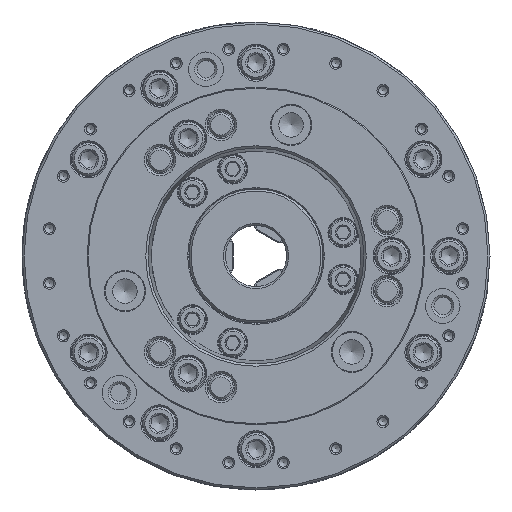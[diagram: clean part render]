
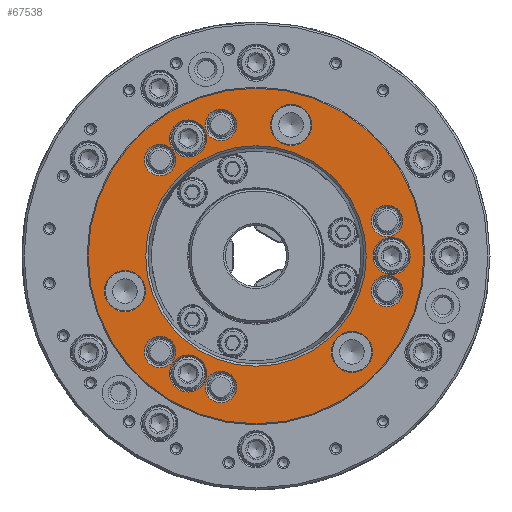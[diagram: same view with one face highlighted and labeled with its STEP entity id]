
A CAD part, left-side view. The second image highlights one B-rep face of the part: STEP entity #67538.
In plain terms, the highlighted planar face has unit normal (-1, 0, 0).
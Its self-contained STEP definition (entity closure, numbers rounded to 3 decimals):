
#695 = DIRECTION ( 'NONE',  ( 0., -0.866, 0.5 ) ) ;
#938 = ORIENTED_EDGE ( 'NONE', *, *, #96399, .F. ) ;
#1169 = FACE_OUTER_BOUND ( 'NONE', #68119, .T. ) ;
#1706 = FACE_BOUND ( 'NONE', #101027, .T. ) ;
#2371 = DIRECTION ( 'NONE',  ( -1., 0., 0. ) ) ;
#2765 = FACE_BOUND ( 'NONE', #103897, .T. ) ;
#3066 = DIRECTION ( 'NONE',  ( 0., 0., 1. ) ) ;
#3513 = VERTEX_POINT ( 'NONE', #67247 ) ;
#3589 = CARTESIAN_POINT ( 'NONE',  ( -110., 0., 0. ) ) ;
#3676 = DIRECTION ( 'NONE',  ( 0., 0., 1. ) ) ;
#4362 = DIRECTION ( 'NONE',  ( 0., 0., 1. ) ) ;
#5574 = CIRCLE ( 'NONE', #79829, 7.75 ) ;
#6825 = CARTESIAN_POINT ( 'NONE',  ( -110., -64.403, 17.257 ) ) ;
#7728 = VERTEX_POINT ( 'NONE', #65516 ) ;
#7999 = CARTESIAN_POINT ( 'NONE',  ( -110., -55.919, -42.081 ) ) ;
#9231 = DIRECTION ( 'NONE',  ( 0., 0., 1. ) ) ;
#9259 = CIRCLE ( 'NONE', #43703, 9.1 ) ;
#9608 = EDGE_CURVE ( 'NONE', #64714, #64714, #106566, .T. ) ;
#9818 = FACE_BOUND ( 'NONE', #87130, .T. ) ;
#11320 = ORIENTED_EDGE ( 'NONE', *, *, #74729, .F. ) ;
#11647 = EDGE_LOOP ( 'NONE', ( #97378 ) ) ;
#12324 = DIRECTION ( 'NONE',  ( -1., 0., 0. ) ) ;
#14077 = DIRECTION ( 'NONE',  ( -1., 0., 0. ) ) ;
#14361 = CIRCLE ( 'NONE', #21265, 82.5 ) ;
#16100 = EDGE_CURVE ( 'NONE', #81981, #81981, #70088, .T. ) ;
#16393 = VERTEX_POINT ( 'NONE', #23954 ) ;
#17582 = EDGE_LOOP ( 'NONE', ( #93160 ) ) ;
#17740 = CARTESIAN_POINT ( 'NONE',  ( -110., 64.403, -27.387 ) ) ;
#18452 = FACE_BOUND ( 'NONE', #43937, .T. ) ;
#19451 = CARTESIAN_POINT ( 'NONE',  ( -110., 33.338, 66.842 ) ) ;
#19881 = EDGE_CURVE ( 'NONE', #45030, #45030, #36125, .T. ) ;
#20870 = AXIS2_PLACEMENT_3D ( 'NONE', #39531, #56303, #38481 ) ;
#21265 = AXIS2_PLACEMENT_3D ( 'NONE', #3589, #77567, #3066 ) ;
#21874 = CARTESIAN_POINT ( 'NONE',  ( -110., -66.675, 0. ) ) ;
#21938 = AXIS2_PLACEMENT_3D ( 'NONE', #80831, #104605, #72203 ) ;
#23723 = CIRCLE ( 'NONE', #21938, 7.75 ) ;
#23954 = CARTESIAN_POINT ( 'NONE',  ( -110., 17.257, 72.153 ) ) ;
#24763 = VERTEX_POINT ( 'NONE', #33876 ) ;
#25248 = AXIS2_PLACEMENT_3D ( 'NONE', #99538, #43313, #695 ) ;
#25488 = FACE_BOUND ( 'NONE', #62116, .T. ) ;
#25735 = EDGE_CURVE ( 'NONE', #16393, #16393, #80370, .T. ) ;
#26598 = CARTESIAN_POINT ( 'NONE',  ( -110., -64.403, -9.507 ) ) ;
#27044 = ORIENTED_EDGE ( 'NONE', *, *, #19881, .F. ) ;
#27068 = DIRECTION ( 'NONE',  ( 1., 0., 0. ) ) ;
#27102 = EDGE_LOOP ( 'NONE', ( #32492 ) ) ;
#28330 = CARTESIAN_POINT ( 'NONE',  ( -110., 47.146, 54.896 ) ) ;
#28695 = EDGE_CURVE ( 'NONE', #57382, #57382, #58014, .T. ) ;
#30385 = EDGE_CURVE ( 'NONE', #7728, #7728, #32700, .T. ) ;
#31105 = AXIS2_PLACEMENT_3D ( 'NONE', #33602, #59551, #49809 ) ;
#32081 = CIRCLE ( 'NONE', #101083, 10.13 ) ;
#32492 = ORIENTED_EDGE ( 'NONE', *, *, #63364, .F. ) ;
#32519 = EDGE_CURVE ( 'NONE', #58454, #58454, #23723, .T. ) ;
#32700 = CIRCLE ( 'NONE', #46463, 7.75 ) ;
#32870 = CARTESIAN_POINT ( 'NONE',  ( -110., 64.403, -17.257 ) ) ;
#33602 = CARTESIAN_POINT ( 'NONE',  ( -110., 47.146, -47.146 ) ) ;
#33876 = CARTESIAN_POINT ( 'NONE',  ( -110., 47.146, -39.396 ) ) ;
#33879 = VERTEX_POINT ( 'NONE', #17740 ) ;
#35148 = FACE_BOUND ( 'NONE', #11647, .T. ) ;
#35805 = CARTESIAN_POINT ( 'NONE',  ( -110., 0., 0. ) ) ;
#36125 = CIRCLE ( 'NONE', #20870, 7.75 ) ;
#36156 = CIRCLE ( 'NONE', #94812, 9.1 ) ;
#36269 = VERTEX_POINT ( 'NONE', #78396 ) ;
#36945 = EDGE_LOOP ( 'NONE', ( #101900 ) ) ;
#37187 = VERTEX_POINT ( 'NONE', #19451 ) ;
#37647 = ORIENTED_EDGE ( 'NONE', *, *, #38820, .F. ) ;
#37883 = DIRECTION ( 'NONE',  ( 0., 0., 1. ) ) ;
#38481 = DIRECTION ( 'NONE',  ( 0., 0., 1. ) ) ;
#38820 = EDGE_CURVE ( 'NONE', #36269, #36269, #95493, .T. ) ;
#39014 = CARTESIAN_POINT ( 'NONE',  ( -110., -8.484, 69.468 ) ) ;
#39531 = CARTESIAN_POINT ( 'NONE',  ( -110., 47.146, 47.146 ) ) ;
#39718 = DIRECTION ( 'NONE',  ( 0., 0., 1. ) ) ;
#41999 = ORIENTED_EDGE ( 'NONE', *, *, #30385, .F. ) ;
#42178 = FACE_BOUND ( 'NONE', #67511, .T. ) ;
#42515 = AXIS2_PLACEMENT_3D ( 'NONE', #45446, #86542, #43875 ) ;
#43256 = FACE_BOUND ( 'NONE', #69552, .T. ) ;
#43313 = DIRECTION ( 'NONE',  ( 1., 0., 0. ) ) ;
#43642 = AXIS2_PLACEMENT_3D ( 'NONE', #21874, #54778, #105019 ) ;
#43703 = AXIS2_PLACEMENT_3D ( 'NONE', #59965, #83204, #9231 ) ;
#43785 = FACE_BOUND ( 'NONE', #79996, .T. ) ;
#43875 = DIRECTION ( 'NONE',  ( 0., 0.866, 0.5 ) ) ;
#43916 = DIRECTION ( 'NONE',  ( 0., 0., 1. ) ) ;
#43937 = EDGE_LOOP ( 'NONE', ( #76658 ) ) ;
#45030 = VERTEX_POINT ( 'NONE', #28330 ) ;
#45446 = CARTESIAN_POINT ( 'NONE',  ( -110., -17.257, 64.403 ) ) ;
#46463 = AXIS2_PLACEMENT_3D ( 'NONE', #6825, #98115, #39718 ) ;
#49591 = DIRECTION ( 'NONE',  ( 0., 0., -1. ) ) ;
#49809 = DIRECTION ( 'NONE',  ( 0., 0., 1. ) ) ;
#50089 = CIRCLE ( 'NONE', #31105, 7.75 ) ;
#51923 = EDGE_CURVE ( 'NONE', #96195, #96195, #5574, .T. ) ;
#54778 = DIRECTION ( 'NONE',  ( -1., 0., 0. ) ) ;
#55161 = DIRECTION ( 'NONE',  ( -1., 0., 0. ) ) ;
#56303 = DIRECTION ( 'NONE',  ( -1., 0., 0. ) ) ;
#57382 = VERTEX_POINT ( 'NONE', #39014 ) ;
#58014 = CIRCLE ( 'NONE', #42515, 10.13 ) ;
#58331 = CARTESIAN_POINT ( 'NONE',  ( -110., 17.257, -56.653 ) ) ;
#58393 = FACE_BOUND ( 'NONE', #27102, .T. ) ;
#58454 = VERTEX_POINT ( 'NONE', #26598 ) ;
#59551 = DIRECTION ( 'NONE',  ( -1., 0., 0. ) ) ;
#59965 = CARTESIAN_POINT ( 'NONE',  ( -110., 33.338, 57.742 ) ) ;
#62116 = EDGE_LOOP ( 'NONE', ( #85185 ) ) ;
#62440 = ORIENTED_EDGE ( 'NONE', *, *, #32519, .F. ) ;
#62668 = CARTESIAN_POINT ( 'NONE',  ( -110., 33.337, -57.742 ) ) ;
#63364 = EDGE_CURVE ( 'NONE', #37187, #37187, #9259, .T. ) ;
#64714 = VERTEX_POINT ( 'NONE', #84531 ) ;
#65516 = CARTESIAN_POINT ( 'NONE',  ( -110., -64.403, 25.007 ) ) ;
#65851 = DIRECTION ( 'NONE',  ( 1., 0., 0. ) ) ;
#66576 = AXIS2_PLACEMENT_3D ( 'NONE', #80016, #55161, #37883 ) ;
#67247 = CARTESIAN_POINT ( 'NONE',  ( -110., 33.337, -48.642 ) ) ;
#67511 = EDGE_LOOP ( 'NONE', ( #37647 ) ) ;
#67538 = ADVANCED_FACE ( 'NONE', ( #75693, #43256, #92448, #25488, #18452, #1706, #58393, #76229, #2765, #9818, #42178, #35148, #1169, #43785 ), #68092, .F. ) ;
#67909 = VERTEX_POINT ( 'NONE', #85223 ) ;
#68092 = PLANE ( 'NONE',  #103410 ) ;
#68119 = EDGE_LOOP ( 'NONE', ( #96940 ) ) ;
#69552 = EDGE_LOOP ( 'NONE', ( #97905 ) ) ;
#70088 = CIRCLE ( 'NONE', #25248, 10.13 ) ;
#72203 = DIRECTION ( 'NONE',  ( 0., 0., 1. ) ) ;
#74729 = EDGE_CURVE ( 'NONE', #24763, #24763, #50089, .T. ) ;
#75693 = FACE_BOUND ( 'NONE', #36945, .T. ) ;
#76229 = FACE_BOUND ( 'NONE', #17582, .T. ) ;
#76658 = ORIENTED_EDGE ( 'NONE', *, *, #25735, .F. ) ;
#77567 = DIRECTION ( 'NONE',  ( -1., 0., 0. ) ) ;
#78396 = CARTESIAN_POINT ( 'NONE',  ( -110., -66.675, 9.1 ) ) ;
#79829 = AXIS2_PLACEMENT_3D ( 'NONE', #92827, #12324, #3676 ) ;
#79996 = EDGE_LOOP ( 'NONE', ( #27044 ) ) ;
#80016 = CARTESIAN_POINT ( 'NONE',  ( -110., 17.257, 64.403 ) ) ;
#80370 = CIRCLE ( 'NONE', #66576, 7.75 ) ;
#80831 = CARTESIAN_POINT ( 'NONE',  ( -110., -64.403, -17.257 ) ) ;
#81981 = VERTEX_POINT ( 'NONE', #7999 ) ;
#83197 = EDGE_CURVE ( 'NONE', #67909, #67909, #14361, .T. ) ;
#83204 = DIRECTION ( 'NONE',  ( -1., 0., 0. ) ) ;
#84531 = CARTESIAN_POINT ( 'NONE',  ( -110., 0., 54.189 ) ) ;
#85185 = ORIENTED_EDGE ( 'NONE', *, *, #51923, .F. ) ;
#85223 = CARTESIAN_POINT ( 'NONE',  ( -110., 0., 82.5 ) ) ;
#85852 = AXIS2_PLACEMENT_3D ( 'NONE', #35805, #2371, #43916 ) ;
#86542 = DIRECTION ( 'NONE',  ( 1., 0., 0. ) ) ;
#87130 = EDGE_LOOP ( 'NONE', ( #41999 ) ) ;
#90853 = CARTESIAN_POINT ( 'NONE',  ( -110., 82.5, 0. ) ) ;
#92448 = FACE_BOUND ( 'NONE', #101520, .T. ) ;
#92827 = CARTESIAN_POINT ( 'NONE',  ( -110., 17.257, -64.403 ) ) ;
#92982 = DIRECTION ( 'NONE',  ( 0., 0., -1. ) ) ;
#93160 = ORIENTED_EDGE ( 'NONE', *, *, #102624, .T. ) ;
#94812 = AXIS2_PLACEMENT_3D ( 'NONE', #62668, #14077, #4362 ) ;
#95493 = CIRCLE ( 'NONE', #43642, 9.1 ) ;
#96195 = VERTEX_POINT ( 'NONE', #58331 ) ;
#96399 = EDGE_CURVE ( 'NONE', #3513, #3513, #36156, .T. ) ;
#96940 = ORIENTED_EDGE ( 'NONE', *, *, #83197, .T. ) ;
#97378 = ORIENTED_EDGE ( 'NONE', *, *, #9608, .F. ) ;
#97905 = ORIENTED_EDGE ( 'NONE', *, *, #16100, .T. ) ;
#98115 = DIRECTION ( 'NONE',  ( -1., 0., 0. ) ) ;
#99538 = CARTESIAN_POINT ( 'NONE',  ( -110., -47.146, -47.146 ) ) ;
#101027 = EDGE_LOOP ( 'NONE', ( #938 ) ) ;
#101083 = AXIS2_PLACEMENT_3D ( 'NONE', #32870, #65851, #49591 ) ;
#101520 = EDGE_LOOP ( 'NONE', ( #11320 ) ) ;
#101900 = ORIENTED_EDGE ( 'NONE', *, *, #28695, .T. ) ;
#102624 = EDGE_CURVE ( 'NONE', #33879, #33879, #32081, .T. ) ;
#103410 = AXIS2_PLACEMENT_3D ( 'NONE', #90853, #27068, #92982 ) ;
#103897 = EDGE_LOOP ( 'NONE', ( #62440 ) ) ;
#104605 = DIRECTION ( 'NONE',  ( -1., 0., 0. ) ) ;
#105019 = DIRECTION ( 'NONE',  ( 0., 0., 1. ) ) ;
#106566 = CIRCLE ( 'NONE', #85852, 54.189 ) ;
